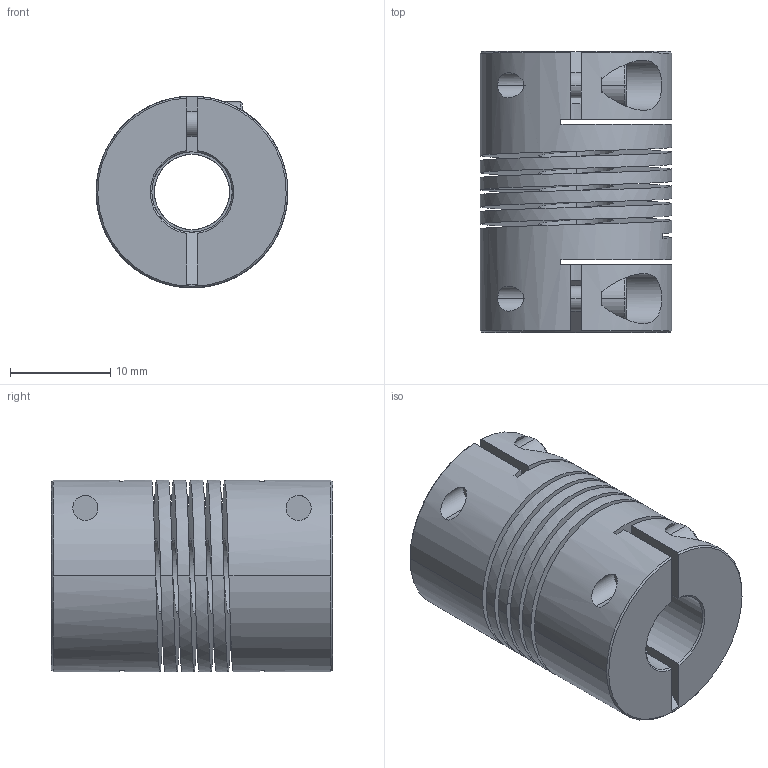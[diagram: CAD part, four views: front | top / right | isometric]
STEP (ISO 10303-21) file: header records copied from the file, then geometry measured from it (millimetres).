
FILE_DESCRIPTION((''),'2;1');
FILE_NAME('827_19','2006-12-06T',('Gary Melling'),(''),'PRO/ENGINEER BY PARAMETRIC TECHNOLOGY CORPORATION, 2006240','PRO/ENGINEER BY PARAMETRIC TECHNOLOGY CORPORATION, 2006240','');
FILE_SCHEMA(('CONFIG_CONTROL_DESIGN'));
Length unit declared in the file: millimetre
Products named in the file (1): 827_19
Bounding box: 19.1 x 28 x 19.1 mm (x, y, z)
Volume: 5719.8 mm3; surface area: 5997.4 mm2
Topology: 1 solids, 1 shells, 101 faces, 275 edges, 182 vertices
Faces by surface type: plane 46, cylinder 41, cone 10, bspline 4
Entity records: 4715 total; most frequent: CARTESIAN_POINT 2188, ORIENTED_EDGE 550, DIRECTION 465, EDGE_CURVE 275, VERTEX_POINT 182, AXIS2_PLACEMENT_3D 163, VECTOR 139, LINE 139
